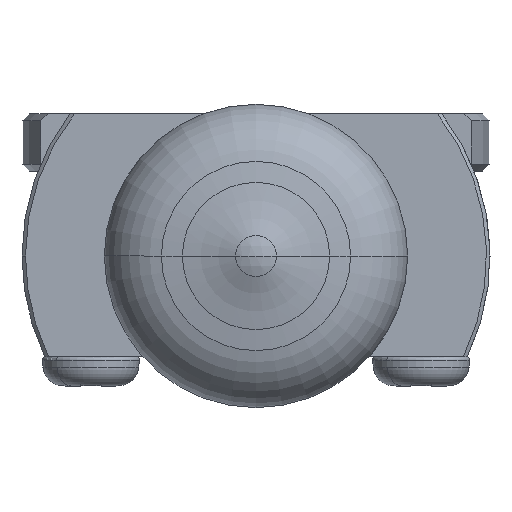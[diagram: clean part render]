
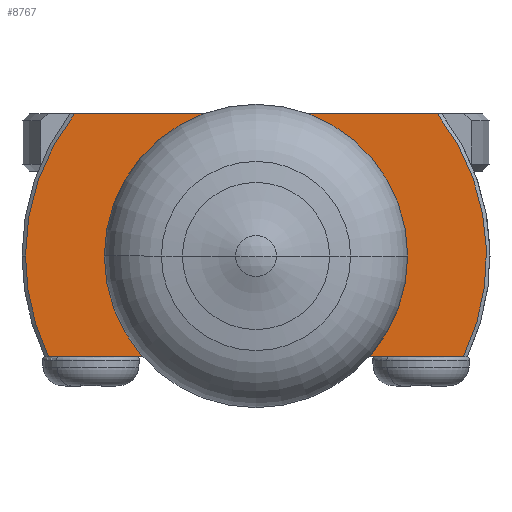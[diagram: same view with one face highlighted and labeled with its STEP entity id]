
A CAD part, left-side view. The second image highlights one B-rep face of the part: STEP entity #8767.
In plain terms, the highlighted planar face has unit normal (-1, 0, 0).
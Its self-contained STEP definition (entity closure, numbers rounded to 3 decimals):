
#1132 = CARTESIAN_POINT ( 'NONE',  ( -2.12, 6.65, 0. ) ) ;
#1180 = AXIS2_PLACEMENT_3D ( 'NONE', #7936, #11601, #15303 ) ;
#1199 = VERTEX_POINT ( 'NONE', #9867 ) ;
#1308 = DIRECTION ( 'NONE',  ( 0., -1., 0. ) ) ;
#1479 = CIRCLE ( 'NONE', #1180, 2.85 ) ;
#1687 = CARTESIAN_POINT ( 'NONE',  ( -2.12, -0.289, 4.1 ) ) ;
#2013 = EDGE_LOOP ( 'NONE', ( #9366, #11961 ) ) ;
#2295 = ORIENTED_EDGE ( 'NONE', *, *, #8995, .T. ) ;
#2889 = CIRCLE ( 'NONE', #7170, 6.65 ) ;
#3613 = EDGE_CURVE ( 'NONE', #9624, #15954, #6374, .T. ) ;
#3651 = DIRECTION ( 'NONE',  ( 0., 1., 0. ) ) ;
#4355 = DIRECTION ( 'NONE',  ( 1., 0., 0. ) ) ;
#4515 = CARTESIAN_POINT ( 'NONE',  ( -2.12, 0., 0. ) ) ;
#4651 = EDGE_CURVE ( 'NONE', #4663, #9624, #15707, .T. ) ;
#4663 = VERTEX_POINT ( 'NONE', #9292 ) ;
#4984 = VECTOR ( 'NONE', #1308, 1000. ) ;
#4999 = EDGE_CURVE ( 'NONE', #1199, #6422, #1479, .T. ) ;
#5107 = ORIENTED_EDGE ( 'NONE', *, *, #12911, .T. ) ;
#5486 = DIRECTION ( 'NONE',  ( 0., 1., 0. ) ) ;
#6143 = VERTEX_POINT ( 'NONE', #8211 ) ;
#6190 = DIRECTION ( 'NONE',  ( 1., 0., 0. ) ) ;
#6210 = AXIS2_PLACEMENT_3D ( 'NONE', #12228, #11090, #12387 ) ;
#6374 = CIRCLE ( 'NONE', #10216, 6.65 ) ;
#6422 = VERTEX_POINT ( 'NONE', #13771 ) ;
#6715 = CARTESIAN_POINT ( 'NONE',  ( -2.12, -5.236, 4.1 ) ) ;
#6922 = DIRECTION ( 'NONE',  ( -1., 0., 0. ) ) ;
#7041 = CIRCLE ( 'NONE', #16015, 2.85 ) ;
#7170 = AXIS2_PLACEMENT_3D ( 'NONE', #9653, #14674, #7316 ) ;
#7316 = DIRECTION ( 'NONE',  ( 0., 1., 0. ) ) ;
#7936 = CARTESIAN_POINT ( 'NONE',  ( -2.12, 0., 0. ) ) ;
#8007 = LINE ( 'NONE', #1687, #14239 ) ;
#8211 = CARTESIAN_POINT ( 'NONE',  ( -2.12, -5.984, -2.9 ) ) ;
#8491 = LINE ( 'NONE', #13925, #4984 ) ;
#8767 = ADVANCED_FACE ( 'NONE', ( #11804, #13554 ), #14455, .T. ) ;
#8995 = EDGE_CURVE ( 'NONE', #4663, #6143, #8491, .T. ) ;
#9187 = DIRECTION ( 'NONE',  ( 0., 1., 0. ) ) ;
#9292 = CARTESIAN_POINT ( 'NONE',  ( -2.12, 5.984, -2.9 ) ) ;
#9366 = ORIENTED_EDGE ( 'NONE', *, *, #11630, .F. ) ;
#9624 = VERTEX_POINT ( 'NONE', #1132 ) ;
#9653 = CARTESIAN_POINT ( 'NONE',  ( -2.12, 0., 0. ) ) ;
#9867 = CARTESIAN_POINT ( 'NONE',  ( -2.12, 0., -2.85 ) ) ;
#10216 = AXIS2_PLACEMENT_3D ( 'NONE', #11115, #6190, #3651 ) ;
#10255 = CARTESIAN_POINT ( 'NONE',  ( -2.12, 5.236, 4.1 ) ) ;
#10603 = ORIENTED_EDGE ( 'NONE', *, *, #15635, .F. ) ;
#11090 = DIRECTION ( 'NONE',  ( -1., 0., 0. ) ) ;
#11115 = CARTESIAN_POINT ( 'NONE',  ( -2.12, 0., 0. ) ) ;
#11601 = DIRECTION ( 'NONE',  ( -1., 0., 0. ) ) ;
#11630 = EDGE_CURVE ( 'NONE', #6422, #1199, #7041, .T. ) ;
#11793 = AXIS2_PLACEMENT_3D ( 'NONE', #4515, #4355, #5486 ) ;
#11804 = FACE_OUTER_BOUND ( 'NONE', #13251, .T. ) ;
#11961 = ORIENTED_EDGE ( 'NONE', *, *, #4999, .F. ) ;
#12168 = CARTESIAN_POINT ( 'NONE',  ( -2.12, 0., 0. ) ) ;
#12228 = CARTESIAN_POINT ( 'NONE',  ( -2.12, 4.785, 0. ) ) ;
#12387 = DIRECTION ( 'NONE',  ( 0., 0.707, 0.707 ) ) ;
#12911 = EDGE_CURVE ( 'NONE', #14467, #15954, #8007, .T. ) ;
#13251 = EDGE_LOOP ( 'NONE', ( #14907, #2295, #10603, #5107, #14669 ) ) ;
#13554 = FACE_BOUND ( 'NONE', #2013, .T. ) ;
#13771 = CARTESIAN_POINT ( 'NONE',  ( -2.12, 0., 2.85 ) ) ;
#13925 = CARTESIAN_POINT ( 'NONE',  ( -2.12, 5.44, -2.9 ) ) ;
#14239 = VECTOR ( 'NONE', #9187, 1000. ) ;
#14455 = PLANE ( 'NONE',  #6210 ) ;
#14467 = VERTEX_POINT ( 'NONE', #6715 ) ;
#14669 = ORIENTED_EDGE ( 'NONE', *, *, #3613, .F. ) ;
#14674 = DIRECTION ( 'NONE',  ( 1., 0., 0. ) ) ;
#14907 = ORIENTED_EDGE ( 'NONE', *, *, #4651, .F. ) ;
#15303 = DIRECTION ( 'NONE',  ( 0., 0., 1. ) ) ;
#15635 = EDGE_CURVE ( 'NONE', #14467, #6143, #2889, .T. ) ;
#15660 = DIRECTION ( 'NONE',  ( 0., 0., 1. ) ) ;
#15707 = CIRCLE ( 'NONE', #11793, 6.65 ) ;
#15954 = VERTEX_POINT ( 'NONE', #10255 ) ;
#16015 = AXIS2_PLACEMENT_3D ( 'NONE', #12168, #6922, #15660 ) ;
